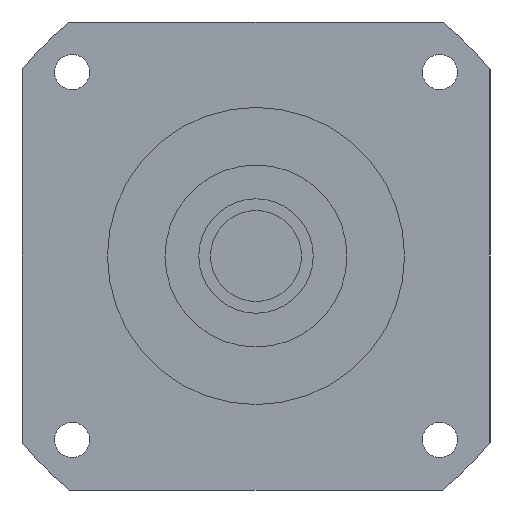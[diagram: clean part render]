
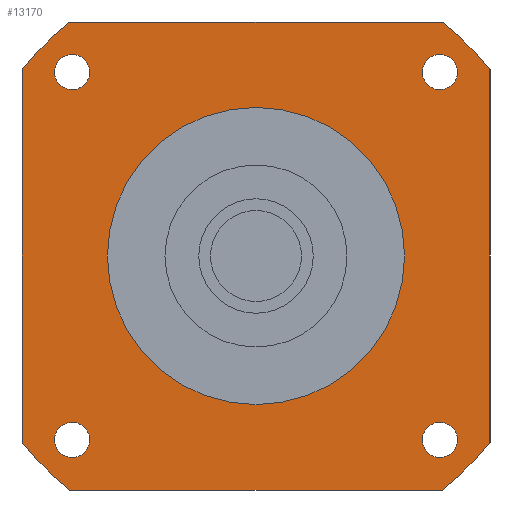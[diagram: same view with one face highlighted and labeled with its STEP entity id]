
A CAD part, left-side view. The second image highlights one B-rep face of the part: STEP entity #13170.
In plain terms, the highlighted planar face has unit normal (-1, 0, 0) as drawn and (0, 0, -1) by its records, which use the part's own axes.
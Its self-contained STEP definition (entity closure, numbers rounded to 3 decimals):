
#10190=CARTESIAN_POINT('',(90.,71.589,-91.7));
#10200=VERTEX_POINT('',#10190);
#10250=CARTESIAN_POINT('',(90.,90.,-91.7));
#10260=DIRECTION('',(0.,-1.,0.));
#10270=VECTOR('',#10260,1000.);
#10280=LINE('',#10250,#10270);
#10290=CARTESIAN_POINT('',(90.,-71.589,-91.7));
#10300=VERTEX_POINT('',#10290);
#10310=EDGE_CURVE('',#10200,#10300,#10280,.T.);
#10590=CARTESIAN_POINT('',(-71.589,90.,-91.7));
#10600=VERTEX_POINT('',#10590);
#10780=CARTESIAN_POINT('',(-90.,71.589,-91.7));
#10790=VERTEX_POINT('',#10780);
#10820=CARTESIAN_POINT('',(0.,0.,
-91.7));
#10830=DIRECTION('',(0.,0.,-1.));
#10840=DIRECTION('',(1.,0.,0.));
#10850=AXIS2_PLACEMENT_3D('',#10820,#10830,#10840);
#10860=CIRCLE('',#10850,115.);
#10870=EDGE_CURVE('',#10790,#10600,#10860,.T.);
#11670=CARTESIAN_POINT('',(57.15,0.,-91.7));
#11680=VERTEX_POINT('',#11670);
#11710=CARTESIAN_POINT('',(0.,0.,
-91.7));
#11720=DIRECTION('',(0.,0.,1.));
#11730=DIRECTION('',(0.,1.,0.));
#11740=AXIS2_PLACEMENT_3D('',#11710,#11720,#11730);
#11750=CIRCLE('',#11740,57.15);
#11760=CARTESIAN_POINT('',(0.,57.15,-91.7));
#11770=VERTEX_POINT('',#11760);
#11780=EDGE_CURVE('',#11680,#11770,#11750,.T.);
#11800=CARTESIAN_POINT('',(-57.15,0.,-91.7));
#11810=VERTEX_POINT('',#11800);
#11820=EDGE_CURVE('',#11770,#11810,#11750,.T.);
#11950=CARTESIAN_POINT('',(90.,90.,-91.7));
#11960=DIRECTION('',(0.,0.,-1.));
#11970=DIRECTION('',(1.,0.,0.));
#11980=AXIS2_PLACEMENT_3D('',#11950,#11960,#11970);
#11990=PLANE('',#11980);
#12000=CARTESIAN_POINT('',(-70.711,-70.711,-91.7));
#12010=DIRECTION('',(0.,0.,-1.));
#12020=DIRECTION('',(0.,-1.,0.));
#12030=AXIS2_PLACEMENT_3D('',#12000,#12010,#12020);
#12040=CIRCLE('',#12030,6.75);
#12050=CARTESIAN_POINT('',(-70.711,-77.461,-91.7));
#12060=VERTEX_POINT('',#12050);
#12070=CARTESIAN_POINT('',(-70.711,-63.961,-91.7));
#12080=VERTEX_POINT('',#12070);
#12090=EDGE_CURVE('',#12060,#12080,#12040,.T.);
#12100=ORIENTED_EDGE('',*,*,#12090,.F.);
#12110=EDGE_CURVE('',#12080,#12060,#12040,.T.);
#12120=ORIENTED_EDGE('',*,*,#12110,.F.);
#12130=EDGE_LOOP('',(#12120,#12100));
#12140=FACE_BOUND('',#12130,.T.);
#12150=CARTESIAN_POINT('',(-70.711,70.711,-91.7));
#12160=DIRECTION('',(0.,0.,-1.));
#12170=DIRECTION('',(-1.,0.,0.));
#12180=AXIS2_PLACEMENT_3D('',#12150,#12160,#12170);
#12190=CIRCLE('',#12180,6.75);
#12200=CARTESIAN_POINT('',(-77.461,70.711,-91.7));
#12210=VERTEX_POINT('',#12200);
#12220=CARTESIAN_POINT('',(-63.961,70.711,-91.7));
#12230=VERTEX_POINT('',#12220);
#12240=EDGE_CURVE('',#12210,#12230,#12190,.T.);
#12250=ORIENTED_EDGE('',*,*,#12240,.F.);
#12260=EDGE_CURVE('',#12230,#12210,#12190,.T.);
#12270=ORIENTED_EDGE('',*,*,#12260,.F.);
#12280=EDGE_LOOP('',(#12270,#12250));
#12290=FACE_BOUND('',#12280,.T.);
#12300=CARTESIAN_POINT('',(70.711,70.711,-91.7));
#12310=DIRECTION('',(0.,0.,-1.));
#12320=DIRECTION('',(0.,1.,0.));
#12330=AXIS2_PLACEMENT_3D('',#12300,#12310,#12320);
#12340=CIRCLE('',#12330,6.75);
#12350=CARTESIAN_POINT('',(70.711,77.461,-91.7));
#12360=VERTEX_POINT('',#12350);
#12370=CARTESIAN_POINT('',(70.711,63.961,-91.7));
#12380=VERTEX_POINT('',#12370);
#12390=EDGE_CURVE('',#12360,#12380,#12340,.T.);
#12400=ORIENTED_EDGE('',*,*,#12390,.F.);
#12410=EDGE_CURVE('',#12380,#12360,#12340,.T.);
#12420=ORIENTED_EDGE('',*,*,#12410,.F.);
#12430=EDGE_LOOP('',(#12420,#12400));
#12440=FACE_BOUND('',#12430,.T.);
#12450=EDGE_CURVE('',#11810,#11680,#11750,.T.);
#12460=ORIENTED_EDGE('',*,*,#12450,.T.);
#12470=ORIENTED_EDGE('',*,*,#11820,.T.);
#12480=ORIENTED_EDGE('',*,*,#11780,.T.);
#12490=EDGE_LOOP('',(#12480,#12470,#12460));
#12500=FACE_BOUND('',#12490,.T.);
#12510=CARTESIAN_POINT('',(-90.,90.,-91.7));
#12520=DIRECTION('',(1.,0.,0.));
#12530=VECTOR('',#12520,1000.);
#12540=LINE('',#12510,#12530);
#12550=CARTESIAN_POINT('',(71.589,90.,-91.7));
#12560=VERTEX_POINT('',#12550);
#12570=EDGE_CURVE('',#10600,#12560,#12540,.T.);
#12580=ORIENTED_EDGE('',*,*,#12570,.T.);
#12590=ORIENTED_EDGE('',*,*,#10870,.T.);
#12600=CARTESIAN_POINT('',(-90.,-90.,-91.7));
#12610=DIRECTION('',(0.,1.,0.));
#12620=VECTOR('',#12610,1000.);
#12630=LINE('',#12600,#12620);
#12640=CARTESIAN_POINT('',(-90.,-71.589,-91.7));
#12650=VERTEX_POINT('',#12640);
#12660=EDGE_CURVE('',#12650,#10790,#12630,.T.);
#12670=ORIENTED_EDGE('',*,*,#12660,.T.);
#12680=CARTESIAN_POINT('',(0.,0.,
-91.7));
#12690=DIRECTION('',(0.,0.,-1.));
#12700=DIRECTION('',(1.,0.,0.));
#12710=AXIS2_PLACEMENT_3D('',#12680,#12690,#12700);
#12720=CIRCLE('',#12710,115.);
#12730=CARTESIAN_POINT('',(-71.589,-90.,-91.7));
#12740=VERTEX_POINT('',#12730);
#12750=EDGE_CURVE('',#12740,#12650,#12720,.T.);
#12760=ORIENTED_EDGE('',*,*,#12750,.T.);
#12770=CARTESIAN_POINT('',(90.,-90.,-91.7));
#12780=DIRECTION('',(-1.,0.,0.));
#12790=VECTOR('',#12780,1000.);
#12800=LINE('',#12770,#12790);
#12810=CARTESIAN_POINT('',(71.589,-90.,-91.7));
#12820=VERTEX_POINT('',#12810);
#12830=EDGE_CURVE('',#12820,#12740,#12800,.T.);
#12840=ORIENTED_EDGE('',*,*,#12830,.T.);
#12850=CARTESIAN_POINT('',(0.,0.,
-91.7));
#12860=DIRECTION('',(0.,0.,-1.));
#12870=DIRECTION('',(1.,0.,0.));
#12880=AXIS2_PLACEMENT_3D('',#12850,#12860,#12870);
#12890=CIRCLE('',#12880,115.);
#12900=EDGE_CURVE('',#10300,#12820,#12890,.T.);
#12910=ORIENTED_EDGE('',*,*,#12900,.T.);
#12920=ORIENTED_EDGE('',*,*,#10310,.T.);
#12930=CARTESIAN_POINT('',(0.,0.,
-91.7));
#12940=DIRECTION('',(0.,0.,-1.));
#12950=DIRECTION('',(1.,0.,0.));
#12960=AXIS2_PLACEMENT_3D('',#12930,#12940,#12950);
#12970=CIRCLE('',#12960,115.);
#12980=EDGE_CURVE('',#12560,#10200,#12970,.T.);
#12990=ORIENTED_EDGE('',*,*,#12980,.T.);
#13000=EDGE_LOOP('',(#12990,#12920,#12910,#12840,#12760,#12670,#12590,
#12580));
#13010=FACE_OUTER_BOUND('',#13000,.T.);
#13020=CARTESIAN_POINT('',(70.711,-70.711,-91.7));
#13030=DIRECTION('',(0.,0.,-1.));
#13040=DIRECTION('',(1.,0.,0.));
#13050=AXIS2_PLACEMENT_3D('',#13020,#13030,#13040);
#13060=CIRCLE('',#13050,6.75);
#13070=CARTESIAN_POINT('',(77.461,-70.711,-91.7));
#13080=VERTEX_POINT('',#13070);
#13090=CARTESIAN_POINT('',(63.961,-70.711,-91.7));
#13100=VERTEX_POINT('',#13090);
#13110=EDGE_CURVE('',#13080,#13100,#13060,.T.);
#13120=ORIENTED_EDGE('',*,*,#13110,.F.);
#13130=EDGE_CURVE('',#13100,#13080,#13060,.T.);
#13140=ORIENTED_EDGE('',*,*,#13130,.F.);
#13150=EDGE_LOOP('',(#13140,#13120));
#13160=FACE_BOUND('',#13150,.T.);
#13170=ADVANCED_FACE('',(#12140,#12290,#12440,#12500,#13010,#13160),
#11990,.T.);
